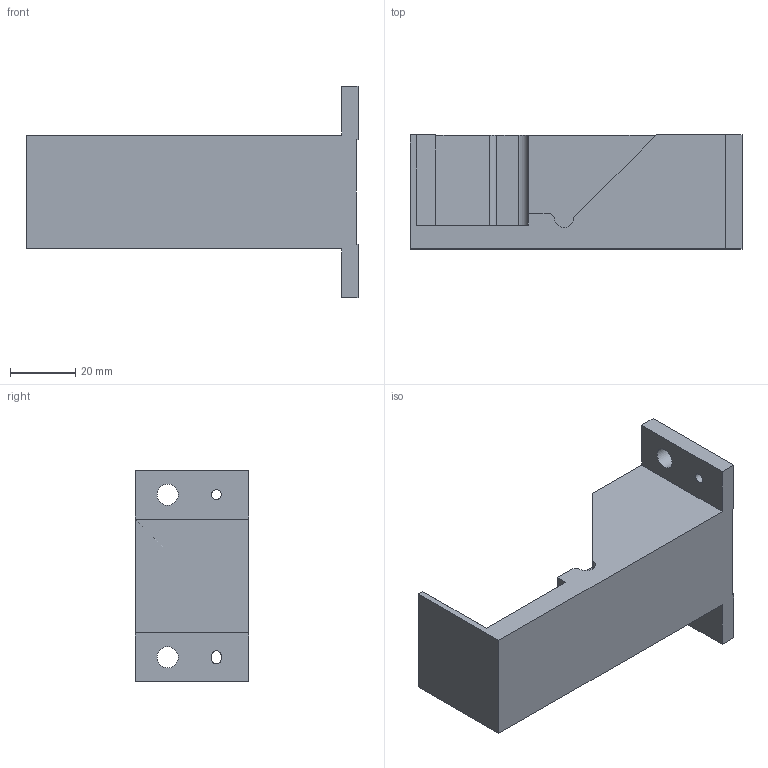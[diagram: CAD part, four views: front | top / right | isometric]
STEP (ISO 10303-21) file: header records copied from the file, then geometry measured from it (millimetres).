
FILE_DESCRIPTION(/* description */ (''),/* implementation_level */ '2;1');
FILE_NAME(/* name */ 'C:\Users\strothej\Documents\ActualDocuments\MicroscopeParts\TwoPhotonSystem\ScanningMechanics\v32\Drawings\Mirror_Periscope.stp',/* time_stamp */ '2017-08-31T17:49:02-07:00',/* author */ ('strothej'),/* organization */ (''),/* preprocessor_version */ 'ST-DEVELOPER v16.1',/* originating_system */ 'Autodesk Inventor 2016',/* authorisation */ '');
FILE_SCHEMA (('AUTOMOTIVE_DESIGN { 1 0 10303 214 3 1 1 }'));
Length unit declared in the file: millimetre
Products named in the file (1): Mirror_Periscope
Bounding box: 102 x 35 x 65 mm (x, y, z)
Volume: 88322.7 mm3; surface area: 20494.1 mm2
Topology: 1 solids, 1 shells, 35 faces, 101 edges, 68 vertices
Faces by surface type: plane 26, cylinder 9
Full cylindrical faces by diameter (mm): 3 x1, 6.5 x2
Entity records: 1156 total; most frequent: CARTESIAN_POINT 198, ORIENTED_EDGE 192, DIRECTION 186, EDGE_CURVE 96, LINE 78, VECTOR 78, VERTEX_POINT 66, AXIS2_PLACEMENT_3D 54
